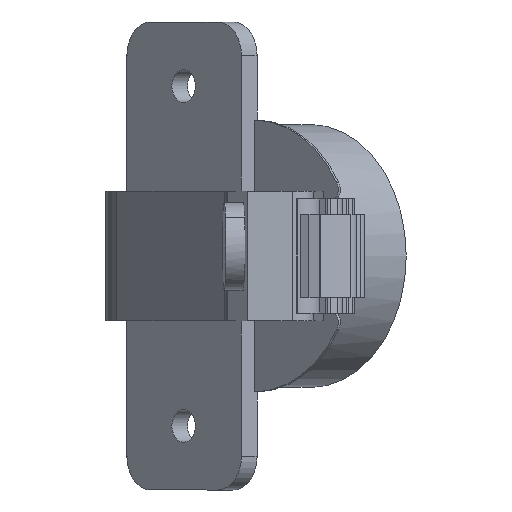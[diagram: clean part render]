
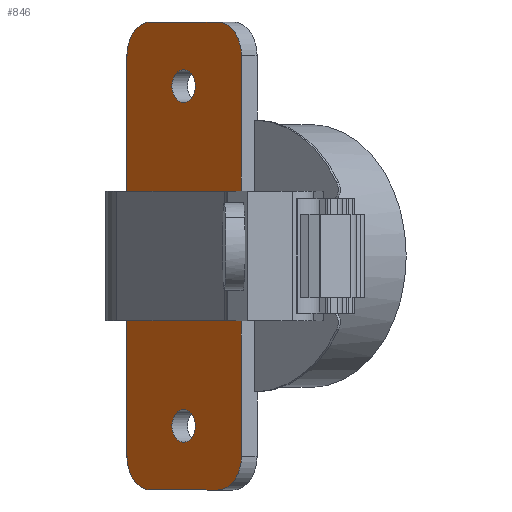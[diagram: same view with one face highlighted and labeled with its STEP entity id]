
A CAD part, left-side view. The second image highlights one B-rep face of the part: STEP entity #846.
In plain terms, the highlighted planar face has unit normal (-0.723, 0.691, 0).
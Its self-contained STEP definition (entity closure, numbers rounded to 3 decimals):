
#29 = CIRCLE ( 'NONE', #2820, 4.446 ) ;
#54 = CARTESIAN_POINT ( 'NONE',  ( 9.395, 1.224, 8.6 ) ) ;
#74 = LINE ( 'NONE', #1688, #3540 ) ;
#127 = EDGE_CURVE ( 'NONE', #3252, #3658, #807, .T. ) ;
#138 = VERTEX_POINT ( 'NONE', #3092 ) ;
#151 = EDGE_CURVE ( 'NONE', #569, #1298, #792, .T. ) ;
#159 = DIRECTION ( 'NONE',  ( 0., 0., 1. ) ) ;
#185 = VERTEX_POINT ( 'NONE', #1868 ) ;
#216 = AXIS2_PLACEMENT_3D ( 'NONE', #3052, #1251, #583 ) ;
#223 = VECTOR ( 'NONE', #3655, 1000. ) ;
#244 = LINE ( 'NONE', #4034, #2181 ) ;
#312 = FACE_BOUND ( 'NONE', #3774, .T. ) ;
#316 = EDGE_CURVE ( 'NONE', #185, #2567, #1717, .T. ) ;
#320 = EDGE_CURVE ( 'NONE', #1049, #3966, #1469, .T. ) ;
#391 = ORIENTED_EDGE ( 'NONE', *, *, #645, .T. ) ;
#433 = EDGE_CURVE ( 'NONE', #1175, #1284, #2537, .T. ) ;
#450 = ORIENTED_EDGE ( 'NONE', *, *, #605, .T. ) ;
#513 = VECTOR ( 'NONE', #2936, 1000. ) ;
#537 = DIRECTION ( 'NONE',  ( 0., 0., -1. ) ) ;
#569 = VERTEX_POINT ( 'NONE', #1084 ) ;
#583 = DIRECTION ( 'NONE',  ( 0., 0., 1. ) ) ;
#592 = AXIS2_PLACEMENT_3D ( 'NONE', #2061, #778, #3345 ) ;
#603 = CARTESIAN_POINT ( 'NONE',  ( 9.395, 1.224, 26.536 ) ) ;
#605 = EDGE_CURVE ( 'NONE', #3741, #1175, #3047, .T. ) ;
#645 = EDGE_CURVE ( 'NONE', #138, #3741, #1490, .T. ) ;
#713 = EDGE_CURVE ( 'NONE', #2549, #1784, #244, .T. ) ;
#734 = EDGE_CURVE ( 'NONE', #1784, #138, #1996, .T. ) ;
#738 = AXIS2_PLACEMENT_3D ( 'NONE', #3994, #890, #3358 ) ;
#778 = DIRECTION ( 'NONE',  ( -0.723, 0.691, 0. ) ) ;
#782 = ORIENTED_EDGE ( 'NONE', *, *, #127, .T. ) ;
#792 = CIRCLE ( 'NONE', #2380, 2.15 ) ;
#807 = LINE ( 'NONE', #2384, #223 ) ;
#846 = ADVANCED_FACE ( 'NONE', ( #1308, #3489, #312 ), #1952, .T. ) ;
#869 = DIRECTION ( 'NONE',  ( 0.691, 0.723, 0. ) ) ;
#890 = DIRECTION ( 'NONE',  ( -0.723, 0.691, 0. ) ) ;
#938 = CARTESIAN_POINT ( 'NONE',  ( 12.465, 4.439, -26.536 ) ) ;
#951 = AXIS2_PLACEMENT_3D ( 'NONE', #4083, #4104, #4040 ) ;
#983 = AXIS2_PLACEMENT_3D ( 'NONE', #938, #1286, #1575 ) ;
#1013 = CARTESIAN_POINT ( 'NONE',  ( 16.703, 8.878, -22.5 ) ) ;
#1049 = VERTEX_POINT ( 'NONE', #2815 ) ;
#1084 = CARTESIAN_POINT ( 'NONE',  ( 16.703, 8.878, 24.65 ) ) ;
#1086 = VECTOR ( 'NONE', #537, 1000. ) ;
#1133 = ORIENTED_EDGE ( 'NONE', *, *, #734, .T. ) ;
#1158 = ORIENTED_EDGE ( 'NONE', *, *, #3547, .T. ) ;
#1171 = ORIENTED_EDGE ( 'NONE', *, *, #316, .F. ) ;
#1175 = VERTEX_POINT ( 'NONE', #1915 ) ;
#1201 = EDGE_CURVE ( 'NONE', #2075, #1883, #1344, .T. ) ;
#1204 = CARTESIAN_POINT ( 'NONE',  ( 20.802, 13.172, 30.982 ) ) ;
#1251 = DIRECTION ( 'NONE',  ( -0.723, 0.691, 0. ) ) ;
#1262 = AXIS2_PLACEMENT_3D ( 'NONE', #2995, #2644, #3283 ) ;
#1284 = VERTEX_POINT ( 'NONE', #3593 ) ;
#1286 = DIRECTION ( 'NONE',  ( -0.723, 0.691, 0. ) ) ;
#1291 = DIRECTION ( 'NONE',  ( -0.691, -0.723, 0. ) ) ;
#1298 = VERTEX_POINT ( 'NONE', #3608 ) ;
#1308 = FACE_OUTER_BOUND ( 'NONE', #2605, .T. ) ;
#1323 = AXIS2_PLACEMENT_3D ( 'NONE', #1013, #2255, #3169 ) ;
#1344 = LINE ( 'NONE', #1399, #3035 ) ;
#1399 = CARTESIAN_POINT ( 'NONE',  ( 9.395, 1.224, 26.536 ) ) ;
#1469 = LINE ( 'NONE', #4018, #1086 ) ;
#1490 = LINE ( 'NONE', #3383, #3985 ) ;
#1500 = DIRECTION ( 'NONE',  ( -0.723, 0.691, 0. ) ) ;
#1502 = ORIENTED_EDGE ( 'NONE', *, *, #2197, .T. ) ;
#1575 = DIRECTION ( 'NONE',  ( 0., 0., 1. ) ) ;
#1608 = CIRCLE ( 'NONE', #951, 2.15 ) ;
#1688 = CARTESIAN_POINT ( 'NONE',  ( 3.557, -4.892, -8.6 ) ) ;
#1717 = CIRCLE ( 'NONE', #216, 2.15 ) ;
#1746 = ORIENTED_EDGE ( 'NONE', *, *, #2754, .T. ) ;
#1784 = VERTEX_POINT ( 'NONE', #1204 ) ;
#1792 = ORIENTED_EDGE ( 'NONE', *, *, #151, .F. ) ;
#1835 = CARTESIAN_POINT ( 'NONE',  ( 12.465, 4.439, 30.982 ) ) ;
#1863 = CARTESIAN_POINT ( 'NONE',  ( 9.395, 1.224, -26.536 ) ) ;
#1868 = CARTESIAN_POINT ( 'NONE',  ( 16.703, 8.878, -20.35 ) ) ;
#1883 = VERTEX_POINT ( 'NONE', #603 ) ;
#1915 = CARTESIAN_POINT ( 'NONE',  ( 20.802, 13.172, -30.982 ) ) ;
#1931 = CARTESIAN_POINT ( 'NONE',  ( 5.08, -3.297, 8.6 ) ) ;
#1952 = PLANE ( 'NONE',  #983 ) ;
#1996 = CIRCLE ( 'NONE', #738, 4.446 ) ;
#2012 = ORIENTED_EDGE ( 'NONE', *, *, #713, .T. ) ;
#2047 = CIRCLE ( 'NONE', #1323, 2.15 ) ;
#2061 = CARTESIAN_POINT ( 'NONE',  ( 12.465, 4.439, -26.536 ) ) ;
#2075 = VERTEX_POINT ( 'NONE', #54 ) ;
#2181 = VECTOR ( 'NONE', #869, 1000. ) ;
#2197 = EDGE_CURVE ( 'NONE', #1049, #2075, #2283, .T. ) ;
#2252 = ORIENTED_EDGE ( 'NONE', *, *, #2633, .F. ) ;
#2255 = DIRECTION ( 'NONE',  ( -0.723, 0.691, 0. ) ) ;
#2283 = LINE ( 'NONE', #1931, #513 ) ;
#2380 = AXIS2_PLACEMENT_3D ( 'NONE', #4012, #3336, #159 ) ;
#2384 = CARTESIAN_POINT ( 'NONE',  ( 9.395, 1.224, 26.536 ) ) ;
#2445 = DIRECTION ( 'NONE',  ( 0., 0., -1. ) ) ;
#2485 = ORIENTED_EDGE ( 'NONE', *, *, #1201, .T. ) ;
#2537 = LINE ( 'NONE', #3559, #2548 ) ;
#2548 = VECTOR ( 'NONE', #1291, 1000. ) ;
#2549 = VERTEX_POINT ( 'NONE', #1835 ) ;
#2567 = VERTEX_POINT ( 'NONE', #3548 ) ;
#2605 = EDGE_LOOP ( 'NONE', ( #2871, #1502, #2485, #1158, #2012, #1133, #391, #450, #3539, #1746, #782, #2639 ) ) ;
#2633 = EDGE_CURVE ( 'NONE', #2567, #185, #2047, .T. ) ;
#2639 = ORIENTED_EDGE ( 'NONE', *, *, #3829, .T. ) ;
#2644 = DIRECTION ( 'NONE',  ( -0.723, 0.691, 0. ) ) ;
#2745 = CARTESIAN_POINT ( 'NONE',  ( 20.182, 12.522, -8.6 ) ) ;
#2754 = EDGE_CURVE ( 'NONE', #1284, #3252, #3643, .T. ) ;
#2773 = DIRECTION ( 'NONE',  ( 0., 0., 1. ) ) ;
#2815 = CARTESIAN_POINT ( 'NONE',  ( 20.182, 12.522, 8.6 ) ) ;
#2820 = AXIS2_PLACEMENT_3D ( 'NONE', #3084, #1500, #2773 ) ;
#2865 = CARTESIAN_POINT ( 'NONE',  ( 9.395, 1.224, -8.6 ) ) ;
#2871 = ORIENTED_EDGE ( 'NONE', *, *, #320, .F. ) ;
#2936 = DIRECTION ( 'NONE',  ( -0.691, -0.723, 0. ) ) ;
#2995 = CARTESIAN_POINT ( 'NONE',  ( 20.802, 13.172, -26.536 ) ) ;
#3035 = VECTOR ( 'NONE', #3307, 1000. ) ;
#3047 = CIRCLE ( 'NONE', #1262, 4.446 ) ;
#3052 = CARTESIAN_POINT ( 'NONE',  ( 16.703, 8.878, -22.5 ) ) ;
#3084 = CARTESIAN_POINT ( 'NONE',  ( 12.465, 4.439, 26.536 ) ) ;
#3092 = CARTESIAN_POINT ( 'NONE',  ( 23.872, 16.387, 26.536 ) ) ;
#3169 = DIRECTION ( 'NONE',  ( 0., 0., 1. ) ) ;
#3204 = DIRECTION ( 'NONE',  ( 0.691, 0.723, 0. ) ) ;
#3252 = VERTEX_POINT ( 'NONE', #1863 ) ;
#3283 = DIRECTION ( 'NONE',  ( 0., 0., 1. ) ) ;
#3307 = DIRECTION ( 'NONE',  ( 0., 0., 1. ) ) ;
#3336 = DIRECTION ( 'NONE',  ( -0.723, 0.691, 0. ) ) ;
#3345 = DIRECTION ( 'NONE',  ( 0., 0., 1. ) ) ;
#3358 = DIRECTION ( 'NONE',  ( 0., 0., 1. ) ) ;
#3383 = CARTESIAN_POINT ( 'NONE',  ( 23.872, 16.387, -26.536 ) ) ;
#3489 = FACE_BOUND ( 'NONE', #3956, .T. ) ;
#3539 = ORIENTED_EDGE ( 'NONE', *, *, #433, .T. ) ;
#3540 = VECTOR ( 'NONE', #3204, 1000. ) ;
#3547 = EDGE_CURVE ( 'NONE', #1883, #2549, #29, .T. ) ;
#3548 = CARTESIAN_POINT ( 'NONE',  ( 16.703, 8.878, -24.65 ) ) ;
#3559 = CARTESIAN_POINT ( 'NONE',  ( 12.465, 4.439, -30.982 ) ) ;
#3593 = CARTESIAN_POINT ( 'NONE',  ( 12.465, 4.439, -30.982 ) ) ;
#3608 = CARTESIAN_POINT ( 'NONE',  ( 16.703, 8.878, 20.35 ) ) ;
#3643 = CIRCLE ( 'NONE', #592, 4.446 ) ;
#3655 = DIRECTION ( 'NONE',  ( 0., 0., 1. ) ) ;
#3658 = VERTEX_POINT ( 'NONE', #2865 ) ;
#3741 = VERTEX_POINT ( 'NONE', #4112 ) ;
#3774 = EDGE_LOOP ( 'NONE', ( #2252, #1171 ) ) ;
#3829 = EDGE_CURVE ( 'NONE', #3658, #3966, #74, .T. ) ;
#3956 = EDGE_LOOP ( 'NONE', ( #1792, #4070 ) ) ;
#3966 = VERTEX_POINT ( 'NONE', #2745 ) ;
#3985 = VECTOR ( 'NONE', #2445, 1000. ) ;
#3994 = CARTESIAN_POINT ( 'NONE',  ( 20.802, 13.172, 26.536 ) ) ;
#4012 = CARTESIAN_POINT ( 'NONE',  ( 16.703, 8.878, 22.5 ) ) ;
#4018 = CARTESIAN_POINT ( 'NONE',  ( 20.182, 12.522, 34.339 ) ) ;
#4034 = CARTESIAN_POINT ( 'NONE',  ( 20.802, 13.172, 30.982 ) ) ;
#4040 = DIRECTION ( 'NONE',  ( 0., 0., 1. ) ) ;
#4070 = ORIENTED_EDGE ( 'NONE', *, *, #4093, .F. ) ;
#4083 = CARTESIAN_POINT ( 'NONE',  ( 16.703, 8.878, 22.5 ) ) ;
#4093 = EDGE_CURVE ( 'NONE', #1298, #569, #1608, .T. ) ;
#4104 = DIRECTION ( 'NONE',  ( -0.723, 0.691, 0. ) ) ;
#4112 = CARTESIAN_POINT ( 'NONE',  ( 23.872, 16.387, -26.536 ) ) ;
